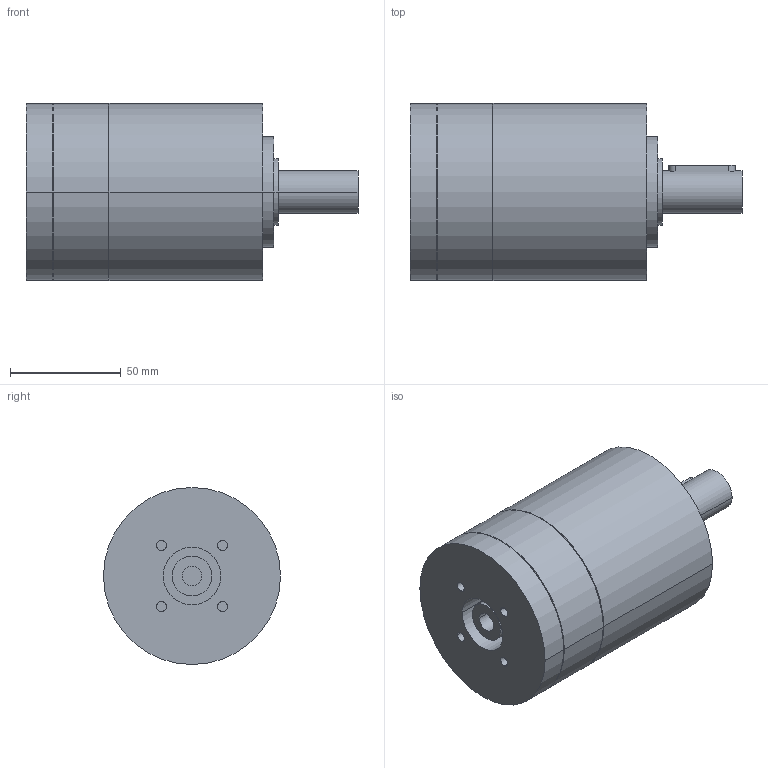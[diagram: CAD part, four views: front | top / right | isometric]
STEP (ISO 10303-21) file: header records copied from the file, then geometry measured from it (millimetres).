
FILE_DESCRIPTION(('CoCreate Modeling STEP Export'),'2;1');
FILE_NAME('GPR100_ig-3-4-5-6_19_B14_9_P09.stp','2014-08-26T10:53:33',(''),(''),'CoCreate Modeling STEP processor for AP214 (Solid Model)','CoCreate Modeling 16.00C 25-Feb-2009 (C) Parametric Technology GmbH','');
FILE_SCHEMA(('AUTOMOTIVE_DESIGN { 1 0 10303 214 1 1 1 1 }'));
Length unit declared in the file: millimetre
Products named in the file (2): GPR100_ig-3-4-5-6_19_B14_9_P09
Assembly tree (1 placements, depth 2):
  GPR100_ig-3-4-5-6_19_B14_9_P09
    GPR100_ig-3-4-5-6_19_B14_9_P09
Bounding box: 150 x 80 x 80 mm (x, y, z)
Volume: 550410 mm3; surface area: 45438.9 mm2
Topology: 1 solids, 1 shells, 77 faces, 197 edges, 141 vertices
Faces by surface type: cylinder 46, plane 25, cone 6
Entity records: 1971 total; most frequent: ORIENTED_EDGE 390, CARTESIAN_POINT 361, DIRECTION 254, EDGE_CURVE 195, VERTEX_POINT 141, AXIS2_PLACEMENT_3D 98, EDGE_LOOP 98, FACE_OUTER_BOUND 77
